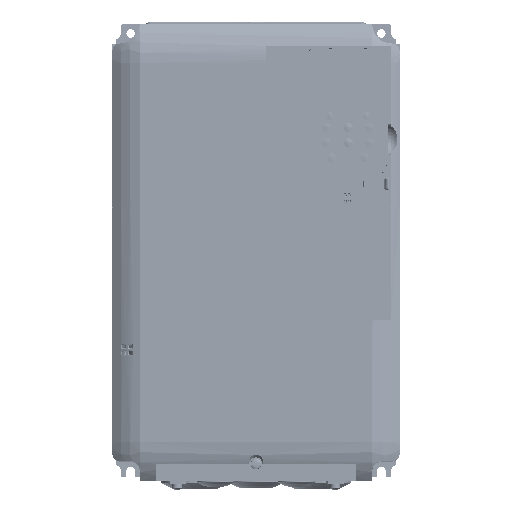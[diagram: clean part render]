
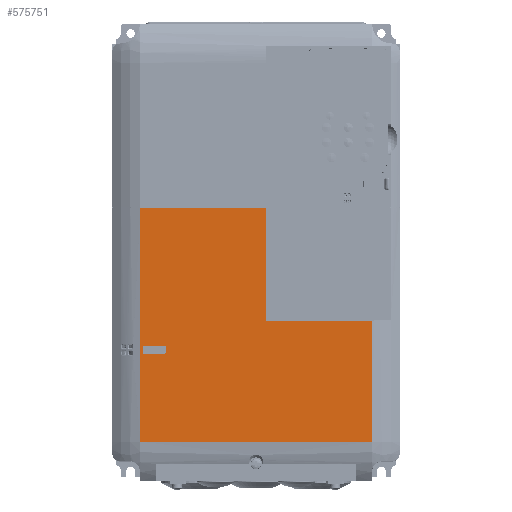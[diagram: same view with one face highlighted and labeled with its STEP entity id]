
A CAD part, top view. The second image highlights one B-rep face of the part: STEP entity #575751.
In plain terms, the highlighted planar face has unit normal (0, 0, 1).
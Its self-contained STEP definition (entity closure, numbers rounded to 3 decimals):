
#567698=DIRECTION('',(-1.,0.,0.));
#567699=VECTOR('',#567698,81.);
#567700=CARTESIAN_POINT('',(88.5,-45.,209.));
#567701=LINE('',#567700,#567699);
#567702=DIRECTION('',(0.,1.,0.));
#567703=VECTOR('',#567702,92.5);
#567704=CARTESIAN_POINT('',(88.5,-137.5,209.));
#567705=LINE('',#567704,#567703);
#567706=DIRECTION('',(1.,0.,0.));
#567707=VECTOR('',#567706,177.);
#567708=CARTESIAN_POINT('',(-88.5,-137.5,209.));
#567709=LINE('',#567708,#567707);
#567710=DIRECTION('',(0.,-1.,0.));
#567711=VECTOR('',#567710,179.);
#567712=CARTESIAN_POINT('',(-88.5,41.5,209.));
#567713=LINE('',#567712,#567711);
#567714=DIRECTION('',(-1.,0.,0.));
#567715=VECTOR('',#567714,96.);
#567716=CARTESIAN_POINT('',(7.5,41.5,209.));
#567717=LINE('',#567716,#567715);
#567754=CARTESIAN_POINT('',(-86.1,-64.75,209.));
#567755=DIRECTION('',(0.,0.,1.));
#567756=DIRECTION('',(0.,1.,0.));
#567757=AXIS2_PLACEMENT_3D('',#567754,#567755,#567756);
#567759=DIRECTION('',(0.,-1.,0.));
#567760=VECTOR('',#567759,4.5);
#567761=CARTESIAN_POINT('',(-86.9,-64.75,209.));
#567762=LINE('',#567761,#567760);
#567763=CARTESIAN_POINT('',(-86.1,-69.25,209.));
#567764=DIRECTION('',(0.,0.,1.));
#567765=DIRECTION('',(-1.,0.,0.));
#567766=AXIS2_PLACEMENT_3D('',#567763,#567764,#567765);
#567768=DIRECTION('',(1.,0.,0.));
#567769=VECTOR('',#567768,16.2);
#567770=CARTESIAN_POINT('',(-86.1,-70.05,209.));
#567771=LINE('',#567770,#567769);
#567772=CARTESIAN_POINT('',(-69.9,-69.25,209.));
#567773=DIRECTION('',(0.,0.,1.));
#567774=DIRECTION('',(0.,-1.,0.));
#567775=AXIS2_PLACEMENT_3D('',#567772,#567773,#567774);
#567777=DIRECTION('',(0.,1.,0.));
#567778=VECTOR('',#567777,4.5);
#567779=CARTESIAN_POINT('',(-69.1,-69.25,209.));
#567780=LINE('',#567779,#567778);
#567781=CARTESIAN_POINT('',(-69.9,-64.75,209.));
#567782=DIRECTION('',(0.,0.,1.));
#567783=DIRECTION('',(1.,0.,0.));
#567784=AXIS2_PLACEMENT_3D('',#567781,#567782,#567783);
#567786=DIRECTION('',(-1.,0.,0.));
#567787=VECTOR('',#567786,16.2);
#567788=CARTESIAN_POINT('',(-69.9,-63.95,209.));
#567789=LINE('',#567788,#567787);
#568378=DIRECTION('',(0.,1.,0.));
#568379=VECTOR('',#568378,86.5);
#568380=CARTESIAN_POINT('',(7.5,-45.,209.));
#568381=LINE('',#568380,#568379);
#573907=CARTESIAN_POINT('',(-88.5,41.5,209.));
#573908=CARTESIAN_POINT('',(-88.5,-137.5,209.));
#573909=VERTEX_POINT('',#573907);
#573910=VERTEX_POINT('',#573908);
#573919=CARTESIAN_POINT('',(88.5,-137.5,209.));
#573920=VERTEX_POINT('',#573919);
#574626=CARTESIAN_POINT('',(7.5,41.5,209.));
#574628=VERTEX_POINT('',#574626);
#574631=CARTESIAN_POINT('',(88.5,-45.,209.));
#574632=CARTESIAN_POINT('',(7.5,-45.,209.));
#574633=VERTEX_POINT('',#574631);
#574634=VERTEX_POINT('',#574632);
#575038=CARTESIAN_POINT('',(-86.1,-63.95,209.));
#575039=CARTESIAN_POINT('',(-86.9,-64.75,209.));
#575040=VERTEX_POINT('',#575038);
#575041=VERTEX_POINT('',#575039);
#575042=CARTESIAN_POINT('',(-86.9,-69.25,209.));
#575043=VERTEX_POINT('',#575042);
#575044=CARTESIAN_POINT('',(-86.1,-70.05,209.));
#575045=VERTEX_POINT('',#575044);
#575046=CARTESIAN_POINT('',(-69.9,-70.05,209.));
#575047=VERTEX_POINT('',#575046);
#575048=CARTESIAN_POINT('',(-69.1,-69.25,209.));
#575049=VERTEX_POINT('',#575048);
#575050=CARTESIAN_POINT('',(-69.1,-64.75,209.));
#575051=VERTEX_POINT('',#575050);
#575052=CARTESIAN_POINT('',(-69.9,-63.95,209.));
#575053=VERTEX_POINT('',#575052);
#575714=CARTESIAN_POINT('',(0.,0.,209.));
#575715=DIRECTION('',(0.,0.,1.));
#575716=DIRECTION('',(1.,0.,0.));
#575717=AXIS2_PLACEMENT_3D('',#575714,#575715,#575716);
#575718=PLANE('',#575717);
#575720=ORIENTED_EDGE('',*,*,#575719,.F.);
#575722=ORIENTED_EDGE('',*,*,#575721,.F.);
#575724=ORIENTED_EDGE('',*,*,#575723,.F.);
#575726=ORIENTED_EDGE('',*,*,#575725,.F.);
#575728=ORIENTED_EDGE('',*,*,#575727,.F.);
#575730=ORIENTED_EDGE('',*,*,#575729,.F.);
#575731=EDGE_LOOP('',(#575720,#575722,#575724,#575726,#575728,#575730));
#575732=FACE_OUTER_BOUND('',#575731,.F.);
#575734=ORIENTED_EDGE('',*,*,#575733,.T.);
#575736=ORIENTED_EDGE('',*,*,#575735,.T.);
#575738=ORIENTED_EDGE('',*,*,#575737,.T.);
#575740=ORIENTED_EDGE('',*,*,#575739,.T.);
#575742=ORIENTED_EDGE('',*,*,#575741,.T.);
#575744=ORIENTED_EDGE('',*,*,#575743,.T.);
#575746=ORIENTED_EDGE('',*,*,#575745,.T.);
#575748=ORIENTED_EDGE('',*,*,#575747,.T.);
#575749=EDGE_LOOP('',(#575734,#575736,#575738,#575740,#575742,#575744,#575746,
#575748));
#575750=FACE_BOUND('',#575749,.F.);
#575751=ADVANCED_FACE('',(#575732,#575750),#575718,.T.);
#567758=CIRCLE('',#567757,0.8);
#567767=CIRCLE('',#567766,0.8);
#567776=CIRCLE('',#567775,0.8);
#567785=CIRCLE('',#567784,0.8);
#575719=EDGE_CURVE('',#574633,#574634,#567701,.T.);
#575721=EDGE_CURVE('',#573920,#574633,#567705,.T.);
#575723=EDGE_CURVE('',#573910,#573920,#567709,.T.);
#575725=EDGE_CURVE('',#573909,#573910,#567713,.T.);
#575727=EDGE_CURVE('',#574628,#573909,#567717,.T.);
#575729=EDGE_CURVE('',#574634,#574628,#568381,.T.);
#575733=EDGE_CURVE('',#575040,#575041,#567758,.T.);
#575735=EDGE_CURVE('',#575041,#575043,#567762,.T.);
#575737=EDGE_CURVE('',#575043,#575045,#567767,.T.);
#575739=EDGE_CURVE('',#575045,#575047,#567771,.T.);
#575741=EDGE_CURVE('',#575047,#575049,#567776,.T.);
#575743=EDGE_CURVE('',#575049,#575051,#567780,.T.);
#575745=EDGE_CURVE('',#575051,#575053,#567785,.T.);
#575747=EDGE_CURVE('',#575053,#575040,#567789,.T.);
